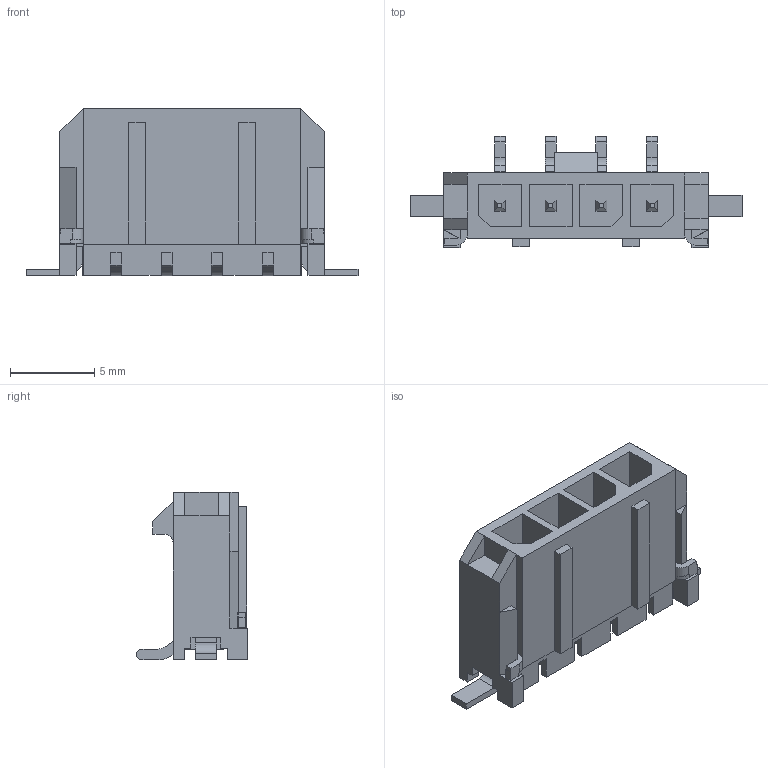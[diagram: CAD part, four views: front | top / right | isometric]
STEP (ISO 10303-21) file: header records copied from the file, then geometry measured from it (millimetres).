
FILE_DESCRIPTION((''),'2;1');
FILE_NAME('436500424','2020-10-20T',('me'),(''),'PRO/ENGINEER BY PARAMETRIC TECHNOLOGY CORPORATION, 2016010','PRO/ENGINEER BY PARAMETRIC TECHNOLOGY CORPORATION, 2016010','');
FILE_SCHEMA(('CONFIG_CONTROL_DESIGN'));
Length unit declared in the file: millimetre
Products named in the file (1): 436500424
Bounding box: 19.65 x 6.57 x 9.93 mm (x, y, z)
Volume: 389.8 mm3; surface area: 962.6 mm2
Topology: 2 solids, 2 shells, 344 faces, 949 edges, 618 vertices
Faces by surface type: plane 309, cylinder 35
Entity records: 10726 total; most frequent: CARTESIAN_POINT 1888, ORIENTED_EDGE 1850, DIRECTION 1725, EDGE_CURVE 925, VECTOR 863, LINE 863, VERTEX_POINT 594, AXIS2_PLACEMENT_3D 431
